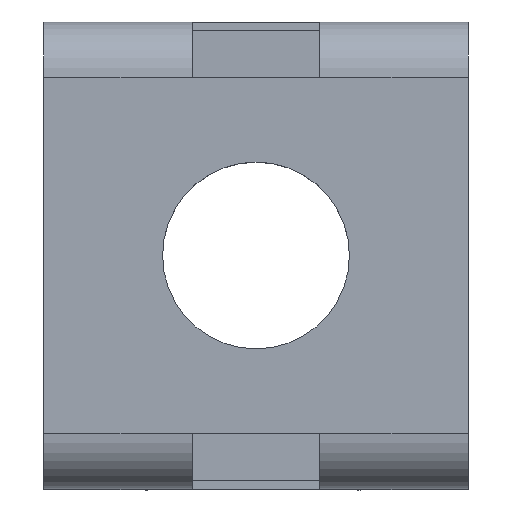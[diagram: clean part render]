
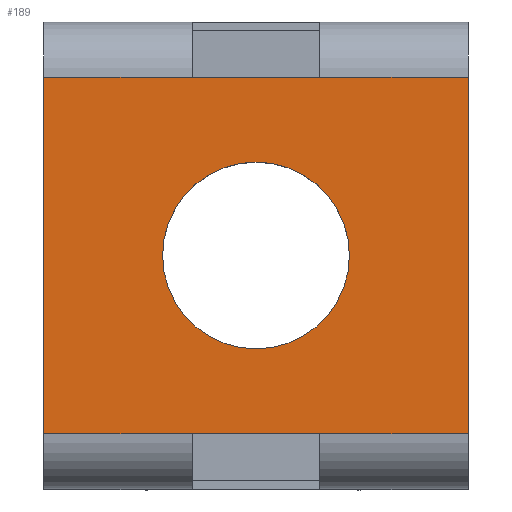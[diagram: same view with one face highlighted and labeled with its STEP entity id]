
A CAD part, top view. The second image highlights one B-rep face of the part: STEP entity #189.
In plain terms, the highlighted planar face has unit normal (0, 0, 1).
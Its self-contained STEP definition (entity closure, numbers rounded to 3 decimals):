
#105=FACE_BOUND('',#363,.T.);
#106=FACE_BOUND('',#364,.T.);
#135=PLANE('',#1693);
#189=ADVANCED_FACE('',(#105,#106),#135,.F.);
#363=EDGE_LOOP('',(#681));
#364=EDGE_LOOP('',(#682,#683,#684,#685,#686,#687,#688,#689));
#469=CIRCLE('',#1692,2.2);
#681=ORIENTED_EDGE('',*,*,#1225,.F.);
#682=ORIENTED_EDGE('',*,*,#1217,.T.);
#683=ORIENTED_EDGE('',*,*,#1090,.F.);
#684=ORIENTED_EDGE('',*,*,#1226,.F.);
#685=ORIENTED_EDGE('',*,*,#1116,.F.);
#686=ORIENTED_EDGE('',*,*,#1207,.F.);
#687=ORIENTED_EDGE('',*,*,#1078,.T.);
#688=ORIENTED_EDGE('',*,*,#1227,.T.);
#689=ORIENTED_EDGE('',*,*,#1073,.T.);
#925=VERTEX_POINT('',#2194);
#926=VERTEX_POINT('',#2195);
#930=VERTEX_POINT('',#2204);
#931=VERTEX_POINT('',#2206);
#942=VERTEX_POINT('',#2230);
#943=VERTEX_POINT('',#2232);
#967=VERTEX_POINT('',#2284);
#968=VERTEX_POINT('',#2285);
#1037=VERTEX_POINT('',#2482);
#1073=EDGE_CURVE('',#925,#926,#1295,.T.);
#1078=EDGE_CURVE('',#931,#930,#1297,.T.);
#1090=EDGE_CURVE('',#942,#943,#1303,.T.);
#1116=EDGE_CURVE('',#967,#968,#1320,.T.);
#1207=EDGE_CURVE('',#931,#967,#1384,.T.);
#1217=EDGE_CURVE('',#926,#943,#1394,.T.);
#1225=EDGE_CURVE('',#1037,#1037,#469,.T.);
#1226=EDGE_CURVE('',#968,#942,#1399,.T.);
#1227=EDGE_CURVE('',#930,#925,#1400,.T.);
#1295=LINE('',#2193,#1457);
#1297=LINE('',#2205,#1459);
#1303=LINE('',#2231,#1465);
#1320=LINE('',#2283,#1482);
#1384=LINE('',#2453,#1546);
#1394=LINE('',#2468,#1556);
#1399=LINE('',#2483,#1561);
#1400=LINE('',#2484,#1562);
#1457=VECTOR('',#1758,1.);
#1459=VECTOR('',#1768,1.);
#1465=VECTOR('',#1790,1.);
#1482=VECTOR('',#1829,1.);
#1546=VECTOR('',#1971,1.);
#1556=VECTOR('',#1991,1.);
#1561=VECTOR('',#2008,1.);
#1562=VECTOR('',#2009,1.);
#1692=AXIS2_PLACEMENT_3D('',#2481,#2006,#2007);
#1693=AXIS2_PLACEMENT_3D('',#2485,#2010,#2011);
#1758=DIRECTION('',(-1.,0.,0.));
#1768=DIRECTION('',(-1.,0.,0.));
#1790=DIRECTION('',(-1.,0.,0.));
#1829=DIRECTION('',(-1.,0.,0.));
#1971=DIRECTION('',(0.,-1.,0.));
#1991=DIRECTION('',(0.,-1.,0.));
#2006=DIRECTION('',(0.,0.,1.));
#2007=DIRECTION('',(-1.,0.,0.));
#2008=DIRECTION('',(-1.,0.,0.));
#2009=DIRECTION('',(-1.,0.,0.));
#2010=DIRECTION('',(0.,0.,-1.));
#2011=DIRECTION('',(1.,0.,0.));
#2193=CARTESIAN_POINT('',(8.,9.7,8.5));
#2194=CARTESIAN_POINT('',(2.5,9.7,8.5));
#2195=CARTESIAN_POINT('',(-1.,9.7,8.5));
#2204=CARTESIAN_POINT('',(5.5,9.7,8.5));
#2205=CARTESIAN_POINT('',(8.,9.7,8.5));
#2206=CARTESIAN_POINT('',(9.,9.7,8.5));
#2230=CARTESIAN_POINT('',(2.5,1.3,8.5));
#2231=CARTESIAN_POINT('',(8.,1.3,8.5));
#2232=CARTESIAN_POINT('',(-1.,1.3,8.5));
#2283=CARTESIAN_POINT('',(8.,1.3,8.5));
#2284=CARTESIAN_POINT('',(9.,1.3,8.5));
#2285=CARTESIAN_POINT('',(5.5,1.3,8.5));
#2453=CARTESIAN_POINT('',(9.,8.7,8.5));
#2468=CARTESIAN_POINT('',(-1.,5.,8.5));
#2481=CARTESIAN_POINT('',(4.,5.5,8.5));
#2482=CARTESIAN_POINT('',(1.8,5.5,8.5));
#2483=CARTESIAN_POINT('',(5.5,1.3,8.5));
#2484=CARTESIAN_POINT('',(5.5,9.7,8.5));
#2485=CARTESIAN_POINT('',(8.,5.,8.5));
